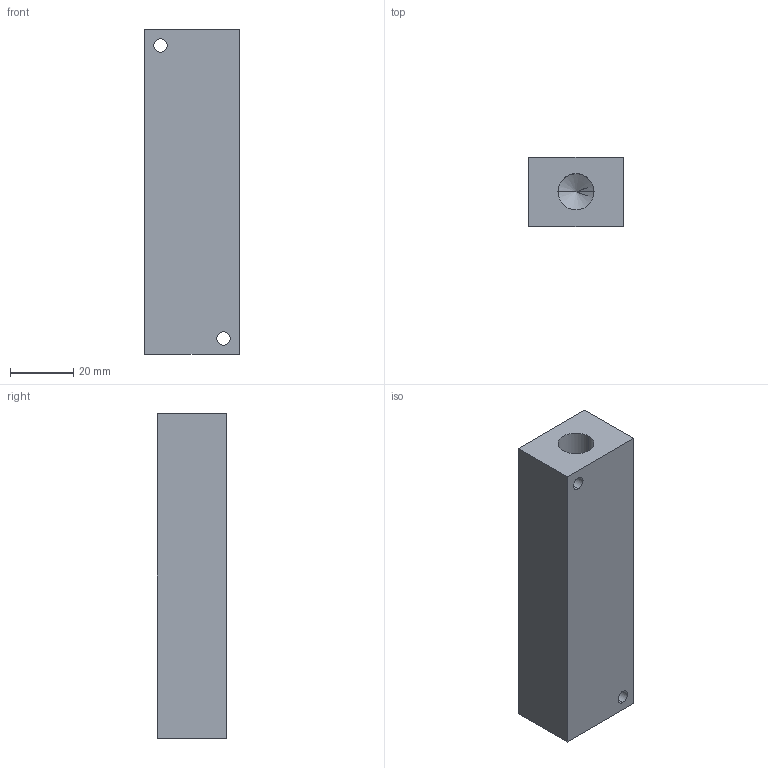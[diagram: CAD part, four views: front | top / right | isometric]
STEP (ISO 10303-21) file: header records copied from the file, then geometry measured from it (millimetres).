
FILE_DESCRIPTION (( 'STEP AP214' ), '1' );
FILE_NAME ('165177-00_Montageplatte SFM6000 Downmount.step', '2023-03-27T11:20:15', ( '' ), ( '' ), 'SwSTEP 2.0', 'SolidWorks 2021', '' );
FILE_SCHEMA (( 'AUTOMOTIVE_DESIGN' ));
Length unit declared in the file: millimetre
Products named in the file (1): 165177-00_Montageplatte SFM6000 Downmount
Bounding box: 30 x 22 x 103 mm (x, y, z)
Volume: 61939.9 mm3; surface area: 14494 mm2
Topology: 1 solids, 1 shells, 50 faces, 120 edges, 70 vertices
Faces by surface type: cylinder 28, cone 12, plane 10
Entity records: 1702 total; most frequent: CARTESIAN_POINT 381, DIRECTION 258, ORIENTED_EDGE 216, EDGE_CURVE 108, AXIS2_PLACEMENT_3D 103, VERTEX_POINT 70, EDGE_LOOP 68, LINE 52
